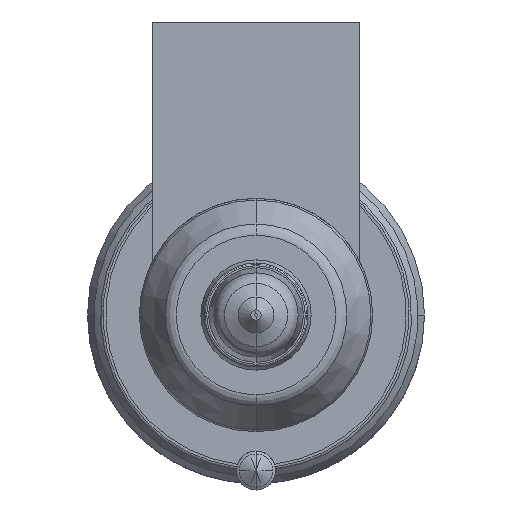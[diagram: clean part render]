
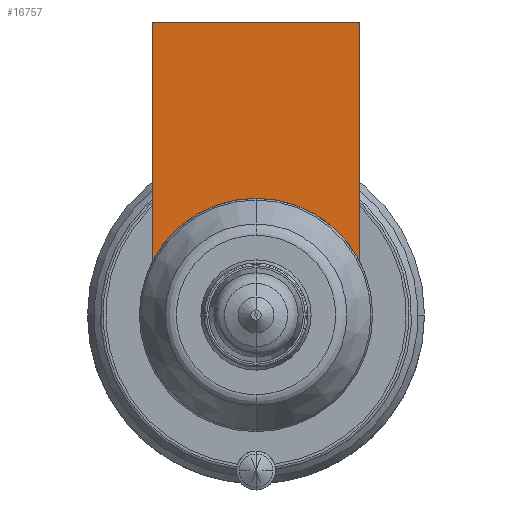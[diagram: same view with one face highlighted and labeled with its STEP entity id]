
A CAD part, front view. The second image highlights one B-rep face of the part: STEP entity #16757.
In plain terms, the highlighted planar face has unit normal (0, -1, 0).
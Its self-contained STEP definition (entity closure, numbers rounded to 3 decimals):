
#15114=DIRECTION('',(0.,0.,-1.));
#15115=VECTOR('',#15114,18.481);
#15116=CARTESIAN_POINT('',(-8.,-54.,22.604));
#15117=LINE('',#15116,#15115);
#15744=CARTESIAN_POINT('',(0.,-54.,0.));
#15745=DIRECTION('',(0.,-1.,0.));
#15746=DIRECTION('',(0.,0.,1.));
#15747=AXIS2_PLACEMENT_3D('',#15744,#15745,#15746);
#15752=DIRECTION('',(1.,0.,0.));
#15753=VECTOR('',#15752,16.);
#15754=CARTESIAN_POINT('',(-8.,-54.,22.604));
#15755=LINE('',#15754,#15753);
#15759=CARTESIAN_POINT('',(0.,-54.,0.));
#15760=DIRECTION('',(0.,-1.,0.));
#15761=DIRECTION('',(0.889,0.,0.458));
#15762=AXIS2_PLACEMENT_3D('',#15759,#15760,#15761);
#15845=DIRECTION('',(0.,0.,-1.));
#15846=VECTOR('',#15845,18.481);
#15847=CARTESIAN_POINT('',(8.,-54.,22.604));
#15848=LINE('',#15847,#15846);
#15954=CARTESIAN_POINT('',(-8.,-54.,22.604));
#15955=VERTEX_POINT('',#15954);
#15960=CARTESIAN_POINT('',(8.,-54.,22.604));
#15961=VERTEX_POINT('',#15960);
#15963=CARTESIAN_POINT('',(-8.,-54.,4.123));
#15965=VERTEX_POINT('',#15963);
#15967=CARTESIAN_POINT('',(8.,-54.,4.123));
#15969=VERTEX_POINT('',#15967);
#15970=CARTESIAN_POINT('',(0.,-54.,9.));
#15971=VERTEX_POINT('',#15970);
#16743=CARTESIAN_POINT('',(-8.,-54.,22.604));
#16744=DIRECTION('',(0.,-1.,0.));
#16745=DIRECTION('',(0.,0.,-1.));
#16746=AXIS2_PLACEMENT_3D('',#16743,#16744,#16745);
#16747=PLANE('',#16746);
#16748=ORIENTED_EDGE('',*,*,#16011,.T.);
#16749=ORIENTED_EDGE('',*,*,#15994,.F.);
#16751=ORIENTED_EDGE('',*,*,#16750,.T.);
#16753=ORIENTED_EDGE('',*,*,#16752,.T.);
#16754=ORIENTED_EDGE('',*,*,#16059,.T.);
#16755=EDGE_LOOP('',(#16748,#16749,#16751,#16753,#16754));
#16756=FACE_OUTER_BOUND('',#16755,.F.);
#16757=ADVANCED_FACE('',(#16756),#16747,.T.);
#15748=CIRCLE('',#15747,9.);
#15763=CIRCLE('',#15762,9.);
#15994=EDGE_CURVE('',#15955,#15965,#15117,.T.);
#16011=EDGE_CURVE('',#15971,#15965,#15748,.T.);
#16059=EDGE_CURVE('',#15969,#15971,#15763,.T.);
#16750=EDGE_CURVE('',#15955,#15961,#15755,.T.);
#16752=EDGE_CURVE('',#15961,#15969,#15848,.T.);
